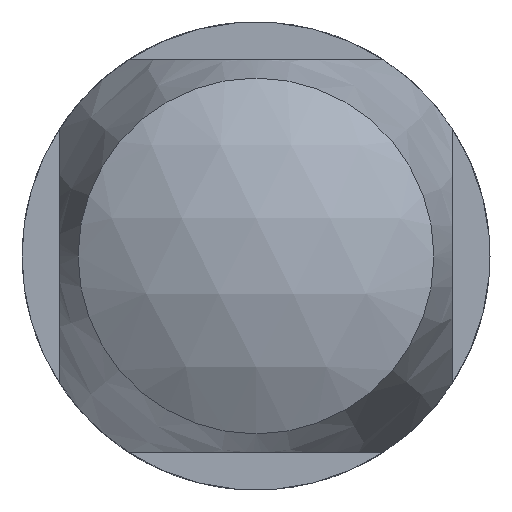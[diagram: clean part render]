
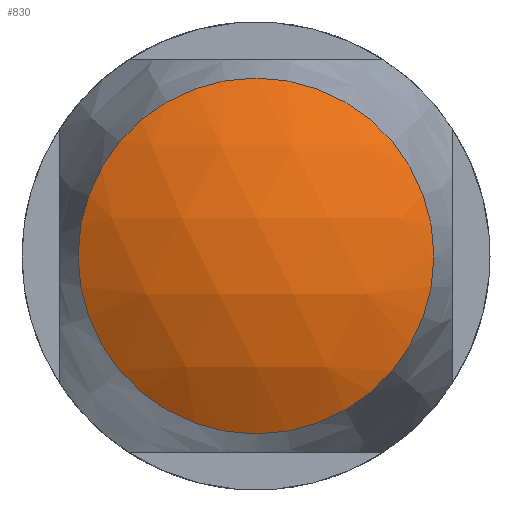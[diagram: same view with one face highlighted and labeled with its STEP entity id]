
A CAD part, front view. The second image highlights one B-rep face of the part: STEP entity #830.
In plain terms, the highlighted spherical face has radius 12.582 mm.
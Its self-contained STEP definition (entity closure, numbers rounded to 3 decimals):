
#19=SPHERICAL_SURFACE('',#917,12.582);
#274=FACE_OUTER_BOUND('',#341,.T.);
#341=EDGE_LOOP('',(#771));
#376=CIRCLE('',#918,6.806);
#453=VERTEX_POINT('',#1603);
#562=EDGE_CURVE('',#453,#453,#376,.T.);
#771=ORIENTED_EDGE('',*,*,#562,.F.);
#830=ADVANCED_FACE('',(#274),#19,.T.);
#917=AXIS2_PLACEMENT_3D('',#1602,#1145,#1146);
#918=AXIS2_PLACEMENT_3D('',#1604,#1147,#1148);
#1145=DIRECTION('center_axis',(0.,0.,1.));
#1146=DIRECTION('ref_axis',(1.,0.,0.));
#1147=DIRECTION('center_axis',(0.,1.,0.));
#1148=DIRECTION('ref_axis',(-1.,0.,0.));
#1602=CARTESIAN_POINT('Origin',(0.,-37.418,
0.));
#1603=CARTESIAN_POINT('',(-6.806,-48.,0.));
#1604=CARTESIAN_POINT('Origin',(0.,-48.,0.));
